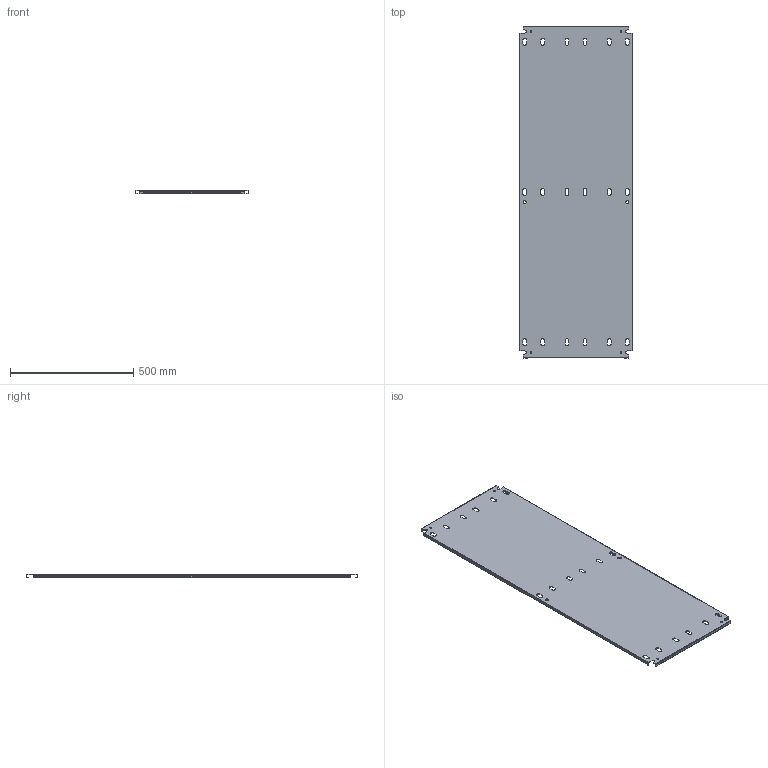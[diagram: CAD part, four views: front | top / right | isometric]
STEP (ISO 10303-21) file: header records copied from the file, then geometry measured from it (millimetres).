
FILE_DESCRIPTION(/* description */ ('1412BTSSCU 18.125" x 53" Right Inner Panel'),/* implementation_level */ '2;1');
FILE_NAME(/* name */ 'C:\Vault_Workspace\Inventor_Dwg\BoxCad\Result\1412BTSSCU12803DT\e-mail\3D\1412BTSSCU12803DTIP2.stp',/* time_stamp */ '2022-11-03T15:25:55-04:00',/* author */ ('BoxCad'),/* organization */ (''),/* preprocessor_version */ 'ST-DEVELOPER v18.1',/* originating_system */ 'Autodesk Inventor 2020',/* authorisation */ '');
FILE_SCHEMA (('AUTOMOTIVE_DESIGN { 1 0 10303 214 3 1 1 }'));
Length unit declared in the file: inch
Products named in the file (2): 1412BTSSCU12803DTIP2; 1412BTSSCU12803DTIP2-P
Assembly tree (1 placements, depth 2):
  1412BTSSCU12803DTIP2
    1412BTSSCU12803DTIP2-P
Bounding box: 460.38 x 1346.2 x 13 mm (x, y, z)
Volume: 1163006.4 mm3; surface area: 1356020.9 mm2
Topology: 1 solids, 1 shells, 192 faces, 570 edges, 380 vertices
Faces by surface type: plane 106, cylinder 86
Full cylindrical faces by diameter (mm): 7.366 x4, 12.7 x2
Entity records: 6631 total; most frequent: CARTESIAN_POINT 1145, ORIENTED_EDGE 1140, DIRECTION 1132, EDGE_CURVE 570, LINE 398, VECTOR 398, VERTEX_POINT 380, AXIS2_PLACEMENT_3D 367
